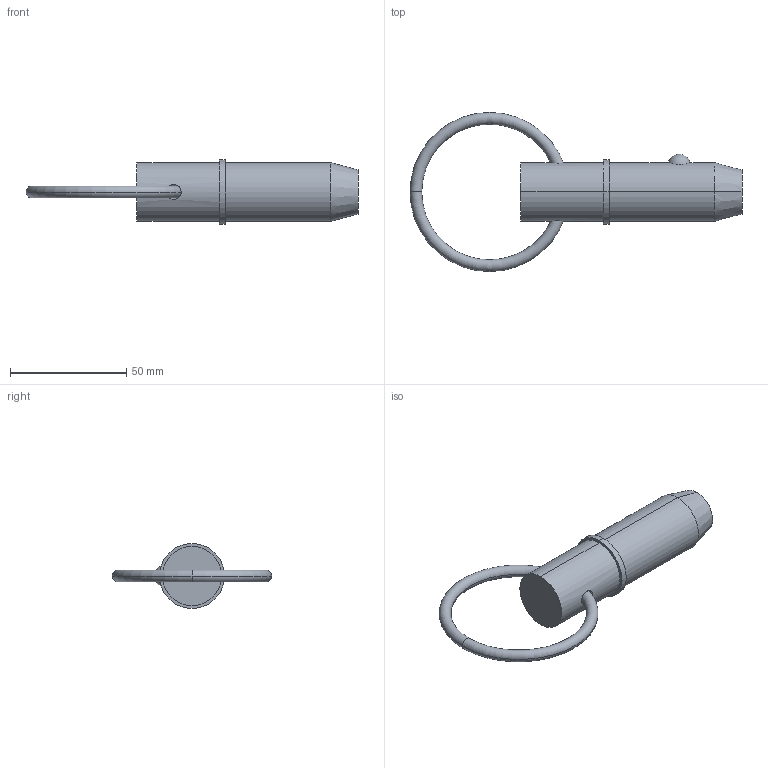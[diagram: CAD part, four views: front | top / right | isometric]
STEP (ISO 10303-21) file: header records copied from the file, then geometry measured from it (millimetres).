
FILE_DESCRIPTION (( 'STEP AP203' ), '1' );
FILE_NAME ('33014.W1010.step', '2024-11-04T08:38:52', ( '' ), ( '' ), 'SwSTEP 2.0', 'SolidWorks 2019', '' );
FILE_SCHEMA (( 'CONFIG_CONTROL_DESIGN' ));
Length unit declared in the file: millimetre
Products named in the file (3): Part1_33014.W1010; Part2_33014.W1010; 33014.W1010
Assembly tree (2 placements, depth 2):
  33014.W1010
    Part1_33014.W1010
    Part2_33014.W1010
Bounding box: 143.02 x 68.58 x 27.94 mm (x, y, z)
Volume: 50541.6 mm3; surface area: 12213.3 mm2
Topology: 2 solids, 2 shells, 22 faces, 43 edges, 26 vertices
Faces by surface type: torus 8, cylinder 6, plane 4, sphere 2, cone 2
Entity records: 1075 total; most frequent: CARTESIAN_POINT 298, DIRECTION 120, ORIENTED_EDGE 86, AXIS2_PLACEMENT_3D 56, EDGE_CURVE 43, CIRCLE 29, EDGE_LOOP 27, VERTEX_POINT 26
